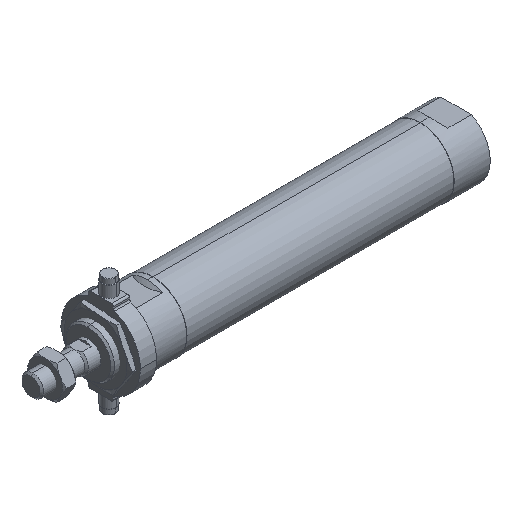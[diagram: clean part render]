
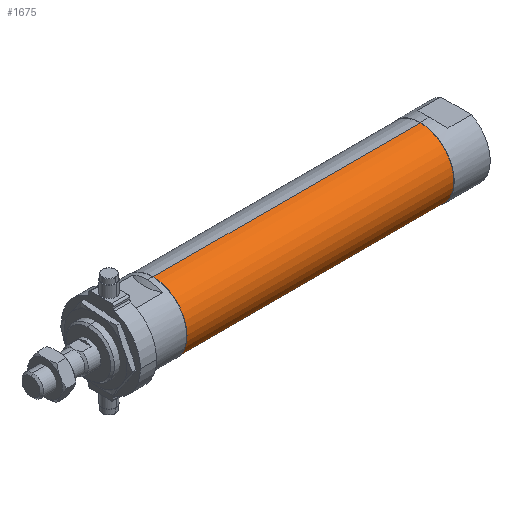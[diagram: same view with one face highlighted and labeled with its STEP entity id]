
A CAD part, isometric view. The second image highlights one B-rep face of the part: STEP entity #1675.
In plain terms, the highlighted cylindrical face has radius 18.8 mm (diameter 37.6 mm), a partial arc.
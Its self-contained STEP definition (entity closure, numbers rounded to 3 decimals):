
#325 = ORIENTED_EDGE ( 'NONE', *, *, #3690, .F. ) ;
#622 = CARTESIAN_POINT ( 'NONE',  ( 217., 0., 0. ) ) ;
#665 = ORIENTED_EDGE ( 'NONE', *, *, #4189, .F. ) ;
#770 = DIRECTION ( 'NONE',  ( -1., 0., 0. ) ) ;
#793 = CARTESIAN_POINT ( 'NONE',  ( 217., 0., 18.8 ) ) ;
#874 = CARTESIAN_POINT ( 'NONE',  ( -1.784, 0., 0. ) ) ;
#958 = CARTESIAN_POINT ( 'NONE',  ( 217., 0., -18.8 ) ) ;
#1017 = LINE ( 'NONE', #2325, #2614 ) ;
#1037 = ORIENTED_EDGE ( 'NONE', *, *, #1736, .T. ) ;
#1291 = DIRECTION ( 'NONE',  ( 0., 0., 1. ) ) ;
#1400 = ORIENTED_EDGE ( 'NONE', *, *, #1609, .T. ) ;
#1540 = DIRECTION ( 'NONE',  ( -1., 0., 0. ) ) ;
#1580 = CARTESIAN_POINT ( 'NONE',  ( 68., 0., 0. ) ) ;
#1586 = VECTOR ( 'NONE', #770, 1000. ) ;
#1600 = DIRECTION ( 'NONE',  ( 0., 0., 1. ) ) ;
#1609 = EDGE_CURVE ( 'NONE', #3384, #3234, #2629, .T. ) ;
#1675 = ADVANCED_FACE ( 'NONE', ( #2576 ), #4216, .T. ) ;
#1736 = EDGE_CURVE ( 'NONE', #4240, #3384, #1757, .T. ) ;
#1754 = AXIS2_PLACEMENT_3D ( 'NONE', #1580, #1540, #2289 ) ;
#1757 = CIRCLE ( 'NONE', #4443, 18.8 ) ;
#1844 = CARTESIAN_POINT ( 'NONE',  ( -1.784, 0., 18.8 ) ) ;
#1956 = CARTESIAN_POINT ( 'NONE',  ( 68., 0., 18.8 ) ) ;
#2289 = DIRECTION ( 'NONE',  ( 0., 0., 1. ) ) ;
#2325 = CARTESIAN_POINT ( 'NONE',  ( -1.784, 0., -18.8 ) ) ;
#2353 = DIRECTION ( 'NONE',  ( -1., 0., 0. ) ) ;
#2576 = FACE_OUTER_BOUND ( 'NONE', #3334, .T. ) ;
#2614 = VECTOR ( 'NONE', #4411, 1000. ) ;
#2629 = LINE ( 'NONE', #1844, #1586 ) ;
#2829 = CIRCLE ( 'NONE', #1754, 18.8 ) ;
#3234 = VERTEX_POINT ( 'NONE', #1956 ) ;
#3334 = EDGE_LOOP ( 'NONE', ( #325, #1037, #1400, #665 ) ) ;
#3357 = CARTESIAN_POINT ( 'NONE',  ( 68., 0., -18.8 ) ) ;
#3384 = VERTEX_POINT ( 'NONE', #793 ) ;
#3482 = VERTEX_POINT ( 'NONE', #3357 ) ;
#3690 = EDGE_CURVE ( 'NONE', #4240, #3482, #1017, .T. ) ;
#3699 = DIRECTION ( 'NONE',  ( -1., 0., 0. ) ) ;
#4189 = EDGE_CURVE ( 'NONE', #3482, #3234, #2829, .T. ) ;
#4216 = CYLINDRICAL_SURFACE ( 'NONE', #4517, 18.8 ) ;
#4240 = VERTEX_POINT ( 'NONE', #958 ) ;
#4411 = DIRECTION ( 'NONE',  ( -1., 0., 0. ) ) ;
#4443 = AXIS2_PLACEMENT_3D ( 'NONE', #622, #2353, #1291 ) ;
#4517 = AXIS2_PLACEMENT_3D ( 'NONE', #874, #3699, #1600 ) ;
